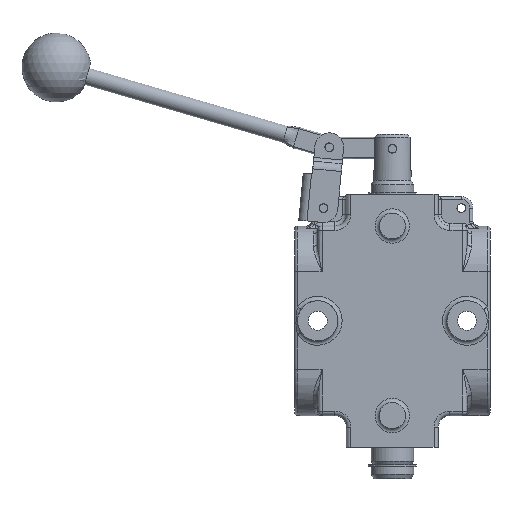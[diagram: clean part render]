
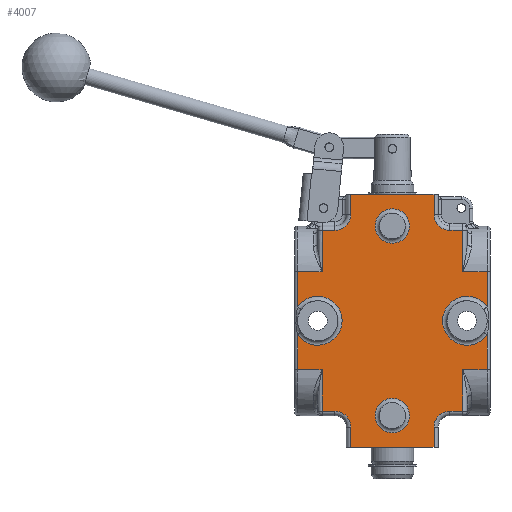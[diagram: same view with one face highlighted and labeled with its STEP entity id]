
A CAD part, front view. The second image highlights one B-rep face of the part: STEP entity #4007.
In plain terms, the highlighted planar face has unit normal (0, -1, 0).
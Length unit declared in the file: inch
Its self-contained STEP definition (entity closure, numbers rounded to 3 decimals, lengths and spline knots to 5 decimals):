
#3470=CARTESIAN_POINT('',(-0.906,-1.0,-2.905));
#3471=VERTEX_POINT('',#3470);
#3496=CARTESIAN_POINT('',(0.906,-1.0,-2.905));
#3497=VERTEX_POINT('',#3496);
#3505=CARTESIAN_POINT('',(0.906,-1.0,-2.905));
#3506=DIRECTION('',(-1.0,0.0,0.0));
#3507=VECTOR('',#3506,1.812);
#3508=LINE('',#3505,#3507);
#3509=EDGE_CURVE('',#3497,#3471,#3508,.T.);
#3584=CARTESIAN_POINT('',(2.063,-1.0,-0.45708));
#3585=VERTEX_POINT('',#3584);
#3594=CARTESIAN_POINT('',(2.063,-1.0,0.14508));
#3595=VERTEX_POINT('',#3594);
#3603=CARTESIAN_POINT('',(1.625,-1.0,-0.156));
#3604=DIRECTION('',(0.0,-1.0,0.0));
#3605=DIRECTION('',(1.0,0.0,0.0));
#3606=AXIS2_PLACEMENT_3D('',#3603,#3604,#3605);
#3607=CIRCLE('',#3606,0.5315);
#3608=EDGE_CURVE('',#3595,#3585,#3607,.T.);
#3671=CARTESIAN_POINT('',(2.063,-1.0,-1.218));
#3672=VERTEX_POINT('',#3671);
#3673=CARTESIAN_POINT('',(2.063,-1.0,-0.45708));
#3674=DIRECTION('',(0.0,0.0,-1.0));
#3675=VECTOR('',#3674,0.76092);
#3676=LINE('',#3673,#3675);
#3677=EDGE_CURVE('',#3585,#3672,#3676,.T.);
#3687=CARTESIAN_POINT('',(2.063,-1.0,0.907));
#3688=VERTEX_POINT('',#3687);
#3696=CARTESIAN_POINT('',(2.063,-1.0,0.907));
#3697=DIRECTION('',(0.0,0.0,-1.0));
#3698=VECTOR('',#3697,0.76192);
#3699=LINE('',#3696,#3698);
#3700=EDGE_CURVE('',#3688,#3595,#3699,.T.);
#3710=CARTESIAN_POINT('',(-2.063,-1.0,0.14508));
#3711=VERTEX_POINT('',#3710);
#3720=CARTESIAN_POINT('',(-2.063,-1.0,-0.45708));
#3721=VERTEX_POINT('',#3720);
#3729=CARTESIAN_POINT('',(-1.625,-1.0,-0.156));
#3730=DIRECTION('',(0.0,-1.0,0.0));
#3731=DIRECTION('',(1.0,0.0,0.0));
#3732=AXIS2_PLACEMENT_3D('',#3729,#3730,#3731);
#3733=CIRCLE('',#3732,0.5315);
#3734=EDGE_CURVE('',#3721,#3711,#3733,.T.);
#3791=CARTESIAN_POINT('',(0.,-1.0,-0.156));
#3792=DIRECTION('',(0.0,1.0,0.0));
#3793=DIRECTION('',(0.0,0.0,1.0));
#3794=AXIS2_PLACEMENT_3D('',#3791,#3792,#3793);
#3795=PLANE('',#3794);
#3796=ORIENTED_EDGE('',*,*,#3608,.F.);
#3797=ORIENTED_EDGE('',*,*,#3700,.F.);
#3798=CARTESIAN_POINT('',(1.531,-1.0,0.907));
#3799=VERTEX_POINT('',#3798);
#3800=CARTESIAN_POINT('',(2.063,-1.0,0.907));
#3801=DIRECTION('',(-1.0,0.0,0.0));
#3802=VECTOR('',#3801,0.532);
#3803=LINE('',#3800,#3802);
#3804=EDGE_CURVE('',#3688,#3799,#3803,.T.);
#3805=ORIENTED_EDGE('',*,*,#3804,.T.);
#3806=CARTESIAN_POINT('',(1.531,-1.0,1.813));
#3807=VERTEX_POINT('',#3806);
#3808=CARTESIAN_POINT('',(1.531,-1.0,1.813));
#3809=DIRECTION('',(0.0,0.0,-1.0));
#3810=VECTOR('',#3809,0.906);
#3811=LINE('',#3808,#3810);
#3812=EDGE_CURVE('',#3807,#3799,#3811,.T.);
#3813=ORIENTED_EDGE('',*,*,#3812,.F.);
#3814=CARTESIAN_POINT('',(1.25,-1.0,1.813));
#3815=VERTEX_POINT('',#3814);
#3816=CARTESIAN_POINT('',(1.25,-1.0,1.813));
#3817=DIRECTION('',(1.0,0.0,0.0));
#3818=VECTOR('',#3817,0.281);
#3819=LINE('',#3816,#3818);
#3820=EDGE_CURVE('',#3815,#3807,#3819,.T.);
#3821=ORIENTED_EDGE('',*,*,#3820,.F.);
#3822=CARTESIAN_POINT('',(0.906,-1.0,2.157));
#3823=VERTEX_POINT('',#3822);
#3824=CARTESIAN_POINT('',(1.25,-1.0,2.157));
#3825=DIRECTION('',(0.0,-1.0,0.0));
#3826=DIRECTION('',(-0.707,0.0,-0.707));
#3827=AXIS2_PLACEMENT_3D('',#3824,#3825,#3826);
#3828=CIRCLE('',#3827,0.344);
#3829=EDGE_CURVE('',#3823,#3815,#3828,.T.);
#3830=ORIENTED_EDGE('',*,*,#3829,.F.);
#3831=CARTESIAN_POINT('',(0.906,-1.0,2.593));
#3832=VERTEX_POINT('',#3831);
#3833=CARTESIAN_POINT('',(0.906,-1.0,2.593));
#3834=DIRECTION('',(0.0,0.0,-1.0));
#3835=VECTOR('',#3834,0.436);
#3836=LINE('',#3833,#3835);
#3837=EDGE_CURVE('',#3832,#3823,#3836,.T.);
#3838=ORIENTED_EDGE('',*,*,#3837,.F.);
#3839=CARTESIAN_POINT('',(-0.906,-1.0,2.593));
#3840=VERTEX_POINT('',#3839);
#3841=CARTESIAN_POINT('',(-0.906,-1.0,2.593));
#3842=DIRECTION('',(1.0,0.0,0.0));
#3843=VECTOR('',#3842,1.812);
#3844=LINE('',#3841,#3843);
#3845=EDGE_CURVE('',#3840,#3832,#3844,.T.);
#3846=ORIENTED_EDGE('',*,*,#3845,.F.);
#3847=CARTESIAN_POINT('',(-0.906,-1.0,2.157));
#3848=VERTEX_POINT('',#3847);
#3849=CARTESIAN_POINT('',(-0.906,-1.0,2.157));
#3850=DIRECTION('',(0.0,0.0,1.0));
#3851=VECTOR('',#3850,0.436);
#3852=LINE('',#3849,#3851);
#3853=EDGE_CURVE('',#3848,#3840,#3852,.T.);
#3854=ORIENTED_EDGE('',*,*,#3853,.F.);
#3855=CARTESIAN_POINT('',(-1.25,-1.0,1.813));
#3856=VERTEX_POINT('',#3855);
#3857=CARTESIAN_POINT('',(-1.25,-1.0,2.157));
#3858=DIRECTION('',(0.0,-1.0,0.0));
#3859=DIRECTION('',(0.707,0.0,-0.707));
#3860=AXIS2_PLACEMENT_3D('',#3857,#3858,#3859);
#3861=CIRCLE('',#3860,0.344);
#3862=EDGE_CURVE('',#3856,#3848,#3861,.T.);
#3863=ORIENTED_EDGE('',*,*,#3862,.F.);
#3864=CARTESIAN_POINT('',(-1.531,-1.0,1.813));
#3865=VERTEX_POINT('',#3864);
#3866=CARTESIAN_POINT('',(-1.531,-1.0,1.813));
#3867=DIRECTION('',(1.0,0.0,0.0));
#3868=VECTOR('',#3867,0.281);
#3869=LINE('',#3866,#3868);
#3870=EDGE_CURVE('',#3865,#3856,#3869,.T.);
#3871=ORIENTED_EDGE('',*,*,#3870,.F.);
#3872=CARTESIAN_POINT('',(-1.531,-1.0,0.907));
#3873=VERTEX_POINT('',#3872);
#3874=CARTESIAN_POINT('',(-1.531,-1.0,0.907));
#3875=DIRECTION('',(0.0,0.0,1.0));
#3876=VECTOR('',#3875,0.906);
#3877=LINE('',#3874,#3876);
#3878=EDGE_CURVE('',#3873,#3865,#3877,.T.);
#3879=ORIENTED_EDGE('',*,*,#3878,.F.);
#3880=CARTESIAN_POINT('',(-2.063,-1.0,0.907));
#3881=VERTEX_POINT('',#3880);
#3882=CARTESIAN_POINT('',(-1.531,-1.0,0.907));
#3883=DIRECTION('',(-1.0,0.0,0.0));
#3884=VECTOR('',#3883,0.532);
#3885=LINE('',#3882,#3884);
#3886=EDGE_CURVE('',#3873,#3881,#3885,.T.);
#3887=ORIENTED_EDGE('',*,*,#3886,.T.);
#3888=CARTESIAN_POINT('',(-2.063,-1.0,0.14508));
#3889=DIRECTION('',(0.0,0.0,1.0));
#3890=VECTOR('',#3889,0.76192);
#3891=LINE('',#3888,#3890);
#3892=EDGE_CURVE('',#3711,#3881,#3891,.T.);
#3893=ORIENTED_EDGE('',*,*,#3892,.F.);
#3894=ORIENTED_EDGE('',*,*,#3734,.F.);
#3895=CARTESIAN_POINT('',(-2.063,-1.0,-1.218));
#3896=VERTEX_POINT('',#3895);
#3897=CARTESIAN_POINT('',(-2.063,-1.0,-1.218));
#3898=DIRECTION('',(0.0,0.0,1.0));
#3899=VECTOR('',#3898,0.76092);
#3900=LINE('',#3897,#3899);
#3901=EDGE_CURVE('',#3896,#3721,#3900,.T.);
#3902=ORIENTED_EDGE('',*,*,#3901,.F.);
#3903=CARTESIAN_POINT('',(-1.531,-1.0,-1.218));
#3904=VERTEX_POINT('',#3903);
#3905=CARTESIAN_POINT('',(-2.063,-1.0,-1.218));
#3906=DIRECTION('',(1.0,0.0,0.0));
#3907=VECTOR('',#3906,0.532);
#3908=LINE('',#3905,#3907);
#3909=EDGE_CURVE('',#3896,#3904,#3908,.T.);
#3910=ORIENTED_EDGE('',*,*,#3909,.T.);
#3911=CARTESIAN_POINT('',(-1.531,-1.0,-2.125));
#3912=VERTEX_POINT('',#3911);
#3913=CARTESIAN_POINT('',(-1.531,-1.0,-2.125));
#3914=DIRECTION('',(0.0,0.0,1.0));
#3915=VECTOR('',#3914,0.907);
#3916=LINE('',#3913,#3915);
#3917=EDGE_CURVE('',#3912,#3904,#3916,.T.);
#3918=ORIENTED_EDGE('',*,*,#3917,.F.);
#3919=CARTESIAN_POINT('',(-1.25,-1.0,-2.125));
#3920=VERTEX_POINT('',#3919);
#3921=CARTESIAN_POINT('',(-1.25,-1.0,-2.125));
#3922=DIRECTION('',(-1.0,0.0,0.0));
#3923=VECTOR('',#3922,0.281);
#3924=LINE('',#3921,#3923);
#3925=EDGE_CURVE('',#3920,#3912,#3924,.T.);
#3926=ORIENTED_EDGE('',*,*,#3925,.F.);
#3927=CARTESIAN_POINT('',(-0.906,-1.0,-2.469));
#3928=VERTEX_POINT('',#3927);
#3929=CARTESIAN_POINT('',(-1.25,-1.0,-2.469));
#3930=DIRECTION('',(0.0,-1.0,0.0));
#3931=DIRECTION('',(0.707,0.0,0.707));
#3932=AXIS2_PLACEMENT_3D('',#3929,#3930,#3931);
#3933=CIRCLE('',#3932,0.344);
#3934=EDGE_CURVE('',#3928,#3920,#3933,.T.);
#3935=ORIENTED_EDGE('',*,*,#3934,.F.);
#3936=CARTESIAN_POINT('',(-0.906,-1.0,-2.905));
#3937=DIRECTION('',(0.0,0.0,1.0));
#3938=VECTOR('',#3937,0.436);
#3939=LINE('',#3936,#3938);
#3940=EDGE_CURVE('',#3471,#3928,#3939,.T.);
#3941=ORIENTED_EDGE('',*,*,#3940,.F.);
#3942=ORIENTED_EDGE('',*,*,#3509,.F.);
#3943=CARTESIAN_POINT('',(0.906,-1.0,-2.469));
#3944=VERTEX_POINT('',#3943);
#3945=CARTESIAN_POINT('',(0.906,-1.0,-2.469));
#3946=DIRECTION('',(0.0,0.0,-1.0));
#3947=VECTOR('',#3946,0.436);
#3948=LINE('',#3945,#3947);
#3949=EDGE_CURVE('',#3944,#3497,#3948,.T.);
#3950=ORIENTED_EDGE('',*,*,#3949,.F.);
#3951=CARTESIAN_POINT('',(1.25,-1.0,-2.125));
#3952=VERTEX_POINT('',#3951);
#3953=CARTESIAN_POINT('',(1.25,-1.0,-2.469));
#3954=DIRECTION('',(0.0,-1.0,0.0));
#3955=DIRECTION('',(-0.707,0.0,0.707));
#3956=AXIS2_PLACEMENT_3D('',#3953,#3954,#3955);
#3957=CIRCLE('',#3956,0.344);
#3958=EDGE_CURVE('',#3952,#3944,#3957,.T.);
#3959=ORIENTED_EDGE('',*,*,#3958,.F.);
#3960=CARTESIAN_POINT('',(1.531,-1.0,-2.125));
#3961=VERTEX_POINT('',#3960);
#3962=CARTESIAN_POINT('',(1.531,-1.0,-2.125));
#3963=DIRECTION('',(-1.0,0.0,0.0));
#3964=VECTOR('',#3963,0.281);
#3965=LINE('',#3962,#3964);
#3966=EDGE_CURVE('',#3961,#3952,#3965,.T.);
#3967=ORIENTED_EDGE('',*,*,#3966,.F.);
#3968=CARTESIAN_POINT('',(1.531,-1.0,-1.218));
#3969=VERTEX_POINT('',#3968);
#3970=CARTESIAN_POINT('',(1.531,-1.0,-1.218));
#3971=DIRECTION('',(0.0,0.0,-1.0));
#3972=VECTOR('',#3971,0.907);
#3973=LINE('',#3970,#3972);
#3974=EDGE_CURVE('',#3969,#3961,#3973,.T.);
#3975=ORIENTED_EDGE('',*,*,#3974,.F.);
#3976=CARTESIAN_POINT('',(1.531,-1.0,-1.218));
#3977=DIRECTION('',(1.0,0.0,0.0));
#3978=VECTOR('',#3977,0.532);
#3979=LINE('',#3976,#3978);
#3980=EDGE_CURVE('',#3969,#3672,#3979,.T.);
#3981=ORIENTED_EDGE('',*,*,#3980,.T.);
#3982=ORIENTED_EDGE('',*,*,#3677,.F.);
#3983=EDGE_LOOP('',(#3796,#3797,#3805,#3813,#3821,#3830,#3838,#3846,#3854,#3863,#3871,#3879,#3887,#3893,#3894,#3902,#3910,#3918,#3926,#3935,#3941,#3942,#3950,#3959,#3967,#3975,#3981,#3982));
#3984=FACE_OUTER_BOUND('',#3983,.T.);
#3985=CARTESIAN_POINT('',(-0.375,-1.0,-2.219));
#3986=VERTEX_POINT('',#3985);
#3987=CARTESIAN_POINT('',(0.0,-1.0,-2.219));
#3988=DIRECTION('',(0.0,-1.0,0.0));
#3989=DIRECTION('',(1.0,0.0,0.0));
#3990=AXIS2_PLACEMENT_3D('',#3987,#3988,#3989);
#3991=CIRCLE('',#3990,0.375);
#3992=EDGE_CURVE('',#3986,#3986,#3991,.T.);
#3993=ORIENTED_EDGE('',*,*,#3992,.F.);
#3994=EDGE_LOOP('',(#3993));
#3995=FACE_BOUND('',#3994,.T.);
#3996=CARTESIAN_POINT('',(-0.375,-1.0,1.907));
#3997=VERTEX_POINT('',#3996);
#3998=CARTESIAN_POINT('',(0.0,-1.0,1.907));
#3999=DIRECTION('',(0.0,-1.0,0.0));
#4000=DIRECTION('',(1.0,0.0,0.0));
#4001=AXIS2_PLACEMENT_3D('',#3998,#3999,#4000);
#4002=CIRCLE('',#4001,0.375);
#4003=EDGE_CURVE('',#3997,#3997,#4002,.T.);
#4004=ORIENTED_EDGE('',*,*,#4003,.F.);
#4005=EDGE_LOOP('',(#4004));
#4006=FACE_BOUND('',#4005,.T.);
#4007=ADVANCED_FACE('',(#3984,#3995,#4006),#3795,.F.);
